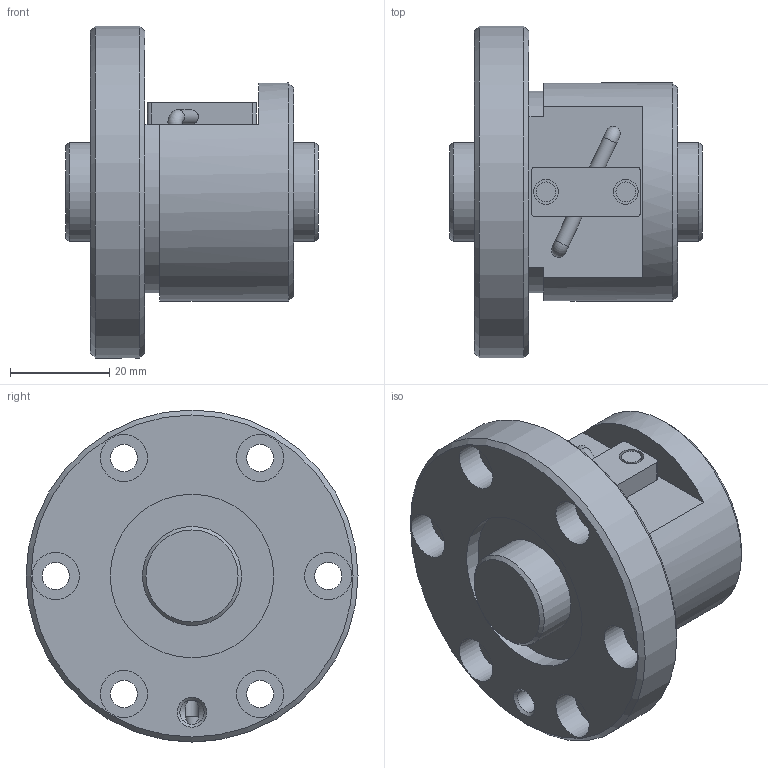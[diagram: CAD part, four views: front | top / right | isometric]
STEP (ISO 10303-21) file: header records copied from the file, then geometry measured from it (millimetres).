
FILE_DESCRIPTION(/* description */ ('STEP AP203'),/* implementation_level */ '2;1');
FILE_NAME(/* name */ 'BNF2005V-2.5RRG1+51LC0_000_rev',/* time_stamp */ '2024-08-06T07:28:14+02:00',/* author */ ('License CC BY-ND 4.0'),/* organization */ ('CADENAS'),/* preprocessor_version */ 'ST-DEVELOPER v19.3',/* originating_system */ 'PARTsolutions',/* authorisation */ ' ');
FILE_SCHEMA (('CONFIG_CONTROL_DESIGN'));
Length unit declared in the file: millimetre
Products named in the file (3): BNF2005V-2.5RRG1+51LC0_000_rev; BNF 2005-2.5RR000 Shaft; BNF 2005-2.5RR Nut
Assembly tree (2 placements, depth 2):
  BNF2005V-2.5RRG1+51LC0_000_rev
    BNF 2005-2.5RR000 Shaft
    BNF 2005-2.5RR Nut
Bounding box: 51 x 67 x 67 mm (x, y, z)
Volume: 76257.3 mm3; surface area: 21779.6 mm2
Topology: 2 solids, 2 shells, 70 faces, 152 edges, 99 vertices
Faces by surface type: cylinder 33, plane 27, cone 8, torus 2
Full cylindrical faces by diameter (mm): 2.75 x2, 2.931 x2, 4 x2, 4.917 x1, 5 x2, 5.5 x6, 9.5 x6, 20 x2, 33 x2, 44 x1, 67 x1
Entity records: 1803 total; most frequent: DIRECTION 316, CARTESIAN_POINT 313, ORIENTED_EDGE 210, AXIS2_PLACEMENT_3D 146, EDGE_LOOP 140, FACE_BOUND 140, EDGE_CURVE 105, VERTEX_POINT 89
